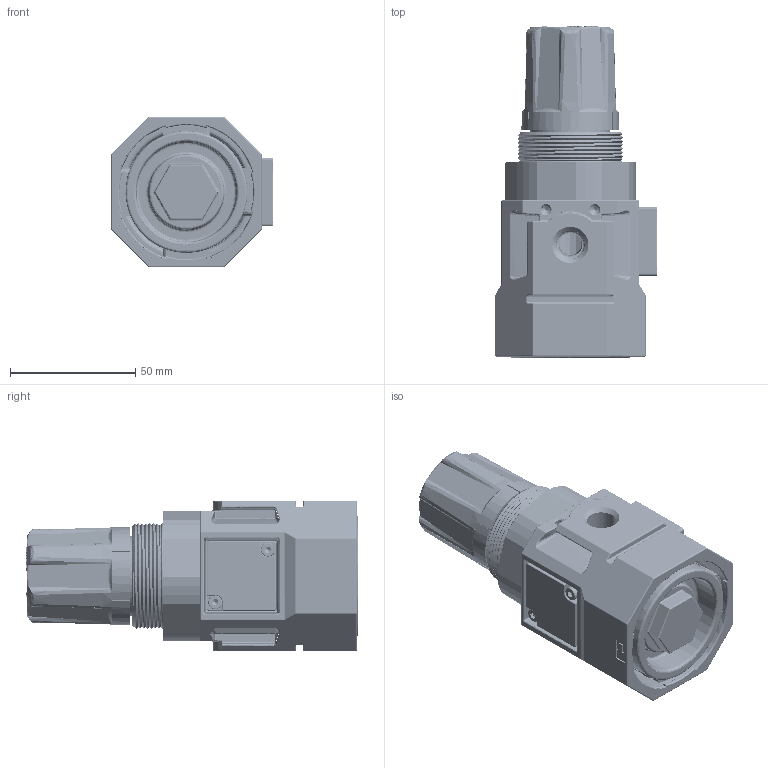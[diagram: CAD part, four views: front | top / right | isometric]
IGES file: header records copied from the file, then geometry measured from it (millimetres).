
Start section: SolidWorks IGES file using analytic representation for surfaces
Bounding box: 64.5 x 132.3 x 60 mm (x, y, z)
Surface area: 87663.6 mm2 (no closed solid volume)
Topology: 0 solids, 0 shells, 2852 faces, 25842 edges, 25768 vertices
Faces by surface type: revolution 1474, bspline 1378
